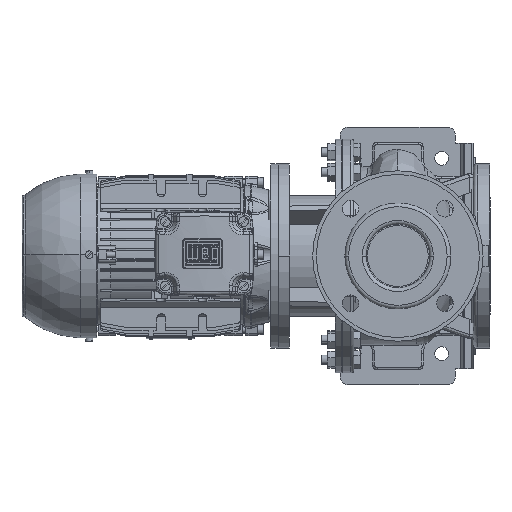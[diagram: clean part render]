
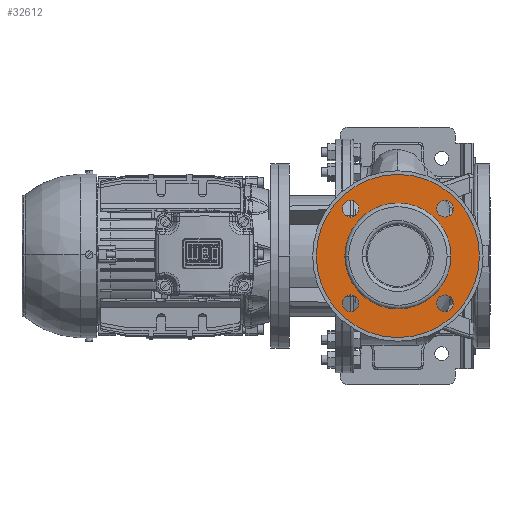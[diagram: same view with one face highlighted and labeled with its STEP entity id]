
A CAD part, left-side view. The second image highlights one B-rep face of the part: STEP entity #32612.
In plain terms, the highlighted planar face has unit normal (-1, 0, 0).
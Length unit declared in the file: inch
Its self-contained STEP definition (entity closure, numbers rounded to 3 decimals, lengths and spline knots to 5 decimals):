
#2226 = ORIENTED_EDGE ( 'NONE', *, *, #87219, .T. ) ;
#5880 = CARTESIAN_POINT ( 'NONE',  ( -6.61417, -5.11811, 0. ) ) ;
#8092 = ORIENTED_EDGE ( 'NONE', *, *, #67151, .T. ) ;
#8902 = VERTEX_POINT ( 'NONE', #59452 ) ;
#10184 = DIRECTION ( 'NONE',  ( 0., 1., 0. ) ) ;
#11184 = CARTESIAN_POINT ( 'NONE',  ( -6.61417, -7.13643, 2.01832 ) ) ;
#11322 = CIRCLE ( 'NONE', #129699, 2.26378 ) ;
#13478 = DIRECTION ( 'NONE',  ( 1., 0., 0. ) ) ;
#15174 = CIRCLE ( 'NONE', #88774, 0.35433 ) ;
#17060 = CARTESIAN_POINT ( 'NONE',  ( -6.61417, -6.7821, 2.01832 ) ) ;
#18431 = AXIS2_PLACEMENT_3D ( 'NONE', #5880, #104634, #67608 ) ;
#24048 = DIRECTION ( 'NONE',  ( -1., 0., 0. ) ) ;
#26919 = DIRECTION ( 'NONE',  ( 0., 1., 0. ) ) ;
#27883 = DIRECTION ( 'NONE',  ( 0., -1., 0. ) ) ;
#28491 = DIRECTION ( 'NONE',  ( 1., 0., 0. ) ) ;
#29769 = PLANE ( 'NONE',  #18431 ) ;
#29801 = VERTEX_POINT ( 'NONE', #124421 ) ;
#29833 = CIRCLE ( 'NONE', #121791, 2.26378 ) ;
#30230 = CARTESIAN_POINT ( 'NONE',  ( -6.61417, -8.60236, 0. ) ) ;
#32612 = ADVANCED_FACE ( 'NONE', ( #68429, #155626, #154810, #131744, #144074, #143268 ), #29769, .F. ) ;
#34064 = DIRECTION ( 'NONE',  ( 1., 0., 0. ) ) ;
#35374 = AXIS2_PLACEMENT_3D ( 'NONE', #11184, #143085, #57504 ) ;
#35864 = EDGE_CURVE ( 'NONE', #116076, #133228, #112755, .T. ) ;
#36506 = EDGE_LOOP ( 'NONE', ( #121295, #106537 ) ) ;
#37071 = EDGE_LOOP ( 'NONE', ( #101743, #142205 ) ) ;
#38937 = DIRECTION ( 'NONE',  ( 0., 0., 1. ) ) ;
#40000 = EDGE_CURVE ( 'NONE', #116958, #91852, #94335, .T. ) ;
#40083 = DIRECTION ( 'NONE',  ( 1., 0., 0. ) ) ;
#41238 = CARTESIAN_POINT ( 'NONE',  ( -6.61417, -7.13643, 2.01832 ) ) ;
#43669 = CARTESIAN_POINT ( 'NONE',  ( -6.61417, -5.11811, 0. ) ) ;
#45619 = CARTESIAN_POINT ( 'NONE',  ( -6.61417, -3.09979, -2.01832 ) ) ;
#47830 = EDGE_CURVE ( 'NONE', #71265, #8902, #29833, .T. ) ;
#49591 = CARTESIAN_POINT ( 'NONE',  ( -6.61417, -3.45412, -2.01832 ) ) ;
#55263 = DIRECTION ( 'NONE',  ( -1., 0., 0. ) ) ;
#55621 = CARTESIAN_POINT ( 'NONE',  ( -6.61417, -1.63386, 0. ) ) ;
#57504 = DIRECTION ( 'NONE',  ( 0., -1., 0. ) ) ;
#57571 = VERTEX_POINT ( 'NONE', #17060 ) ;
#58495 = VERTEX_POINT ( 'NONE', #55621 ) ;
#59254 = DIRECTION ( 'NONE',  ( 1., 0., 0. ) ) ;
#59452 = CARTESIAN_POINT ( 'NONE',  ( -6.61417, -7.38189, 0. ) ) ;
#59484 = EDGE_LOOP ( 'NONE', ( #2226, #105221 ) ) ;
#61901 = DIRECTION ( 'NONE',  ( 0., 1., 0. ) ) ;
#62612 = EDGE_CURVE ( 'NONE', #58495, #110651, #84263, .T. ) ;
#62991 = DIRECTION ( 'NONE',  ( 1., 0., 0. ) ) ;
#63661 = DIRECTION ( 'NONE',  ( 0., 0., 1. ) ) ;
#64541 = CARTESIAN_POINT ( 'NONE',  ( -6.61417, -3.09979, 2.37265 ) ) ;
#66028 = DIRECTION ( 'NONE',  ( 0., 1., 0. ) ) ;
#66574 = VERTEX_POINT ( 'NONE', #118514 ) ;
#67151 = EDGE_CURVE ( 'NONE', #57571, #29801, #105993, .T. ) ;
#67426 = EDGE_CURVE ( 'NONE', #71265, #8902, #11322, .T. ) ;
#67608 = DIRECTION ( 'NONE',  ( 0., 1., 0. ) ) ;
#67791 = EDGE_LOOP ( 'NONE', ( #77489, #8092 ) ) ;
#68429 = FACE_OUTER_BOUND ( 'NONE', #86908, .T. ) ;
#68837 = CARTESIAN_POINT ( 'NONE',  ( -6.61417, -2.74546, -2.01832 ) ) ;
#69497 = EDGE_CURVE ( 'NONE', #29801, #57571, #72161, .T. ) ;
#69576 = DIRECTION ( 'NONE',  ( 0., 0., -1. ) ) ;
#70741 = EDGE_LOOP ( 'NONE', ( #111847, #76908 ) ) ;
#71265 = VERTEX_POINT ( 'NONE', #118260 ) ;
#72161 = CIRCLE ( 'NONE', #35374, 0.35433 ) ;
#76248 = CARTESIAN_POINT ( 'NONE',  ( -6.61417, -3.09979, 2.01832 ) ) ;
#76400 = AXIS2_PLACEMENT_3D ( 'NONE', #90276, #40083, #26919 ) ;
#76908 = ORIENTED_EDGE ( 'NONE', *, *, #67426, .T. ) ;
#77489 = ORIENTED_EDGE ( 'NONE', *, *, #69497, .T. ) ;
#77624 = DIRECTION ( 'NONE',  ( 1., 0., 0. ) ) ;
#78601 = AXIS2_PLACEMENT_3D ( 'NONE', #76248, #28491, #69576 ) ;
#78885 = CARTESIAN_POINT ( 'NONE',  ( -6.61417, -3.09979, -2.01832 ) ) ;
#84263 = CIRCLE ( 'NONE', #76400, 3.48425 ) ;
#85050 = AXIS2_PLACEMENT_3D ( 'NONE', #86568, #24048, #61901 ) ;
#86519 = CIRCLE ( 'NONE', #110256, 0.35433 ) ;
#86567 = AXIS2_PLACEMENT_3D ( 'NONE', #45619, #34064, #10184 ) ;
#86568 = CARTESIAN_POINT ( 'NONE',  ( -6.61417, -5.11811, 0. ) ) ;
#86908 = EDGE_LOOP ( 'NONE', ( #110717, #139370 ) ) ;
#87219 = EDGE_CURVE ( 'NONE', #91852, #116958, #106463, .T. ) ;
#88774 = AXIS2_PLACEMENT_3D ( 'NONE', #151650, #13478, #63661 ) ;
#89977 = CARTESIAN_POINT ( 'NONE',  ( -6.61417, -3.09979, 2.01832 ) ) ;
#90276 = CARTESIAN_POINT ( 'NONE',  ( -6.61417, -5.11811, 0. ) ) ;
#91417 = DIRECTION ( 'NONE',  ( 1., 0., 0. ) ) ;
#91852 = VERTEX_POINT ( 'NONE', #64541 ) ;
#92298 = CARTESIAN_POINT ( 'NONE',  ( -6.61417, -5.11811, 0. ) ) ;
#93698 = CARTESIAN_POINT ( 'NONE',  ( -6.61417, -7.13643, -1.66399 ) ) ;
#94335 = CIRCLE ( 'NONE', #78601, 0.35433 ) ;
#95914 = AXIS2_PLACEMENT_3D ( 'NONE', #89977, #77624, #38937 ) ;
#96655 = EDGE_CURVE ( 'NONE', #133228, #116076, #86519, .T. ) ;
#97566 = CARTESIAN_POINT ( 'NONE',  ( -6.61417, -3.09979, 1.66399 ) ) ;
#98591 = CIRCLE ( 'NONE', #159060, 0.35433 ) ;
#101743 = ORIENTED_EDGE ( 'NONE', *, *, #35864, .T. ) ;
#103782 = DIRECTION ( 'NONE',  ( 0., 1., 0. ) ) ;
#104634 = DIRECTION ( 'NONE',  ( 1., 0., 0. ) ) ;
#105221 = ORIENTED_EDGE ( 'NONE', *, *, #40000, .T. ) ;
#105993 = CIRCLE ( 'NONE', #142715, 0.35433 ) ;
#106463 = CIRCLE ( 'NONE', #95914, 0.35433 ) ;
#106537 = ORIENTED_EDGE ( 'NONE', *, *, #151598, .T. ) ;
#108633 = DIRECTION ( 'NONE',  ( 0., 1., 0. ) ) ;
#109632 = EDGE_CURVE ( 'NONE', #66574, #131810, #98591, .T. ) ;
#110256 = AXIS2_PLACEMENT_3D ( 'NONE', #78885, #153732, #27883 ) ;
#110651 = VERTEX_POINT ( 'NONE', #30230 ) ;
#110717 = ORIENTED_EDGE ( 'NONE', *, *, #62612, .F. ) ;
#111847 = ORIENTED_EDGE ( 'NONE', *, *, #47830, .F. ) ;
#112755 = CIRCLE ( 'NONE', #86567, 0.35433 ) ;
#116076 = VERTEX_POINT ( 'NONE', #68837 ) ;
#116958 = VERTEX_POINT ( 'NONE', #97566 ) ;
#118260 = CARTESIAN_POINT ( 'NONE',  ( -6.61417, -2.85433, 0. ) ) ;
#118514 = CARTESIAN_POINT ( 'NONE',  ( -6.61417, -7.13643, -2.37265 ) ) ;
#121295 = ORIENTED_EDGE ( 'NONE', *, *, #109632, .T. ) ;
#121791 = AXIS2_PLACEMENT_3D ( 'NONE', #92298, #55263, #66028 ) ;
#124421 = CARTESIAN_POINT ( 'NONE',  ( -6.61417, -7.49076, 2.01832 ) ) ;
#129699 = AXIS2_PLACEMENT_3D ( 'NONE', #43669, #59254, #108633 ) ;
#131744 = FACE_BOUND ( 'NONE', #36506, .T. ) ;
#131810 = VERTEX_POINT ( 'NONE', #93698 ) ;
#132376 = CIRCLE ( 'NONE', #85050, 3.48425 ) ;
#133228 = VERTEX_POINT ( 'NONE', #49591 ) ;
#138642 = DIRECTION ( 'NONE',  ( 0., 0., -1. ) ) ;
#139370 = ORIENTED_EDGE ( 'NONE', *, *, #141981, .T. ) ;
#140286 = CARTESIAN_POINT ( 'NONE',  ( -6.61417, -7.13643, -2.01832 ) ) ;
#141981 = EDGE_CURVE ( 'NONE', #58495, #110651, #132376, .T. ) ;
#142205 = ORIENTED_EDGE ( 'NONE', *, *, #96655, .T. ) ;
#142715 = AXIS2_PLACEMENT_3D ( 'NONE', #41238, #91417, #103782 ) ;
#143085 = DIRECTION ( 'NONE',  ( 1., 0., 0. ) ) ;
#143268 = FACE_BOUND ( 'NONE', #59484, .T. ) ;
#144074 = FACE_BOUND ( 'NONE', #37071, .T. ) ;
#151598 = EDGE_CURVE ( 'NONE', #131810, #66574, #15174, .T. ) ;
#151650 = CARTESIAN_POINT ( 'NONE',  ( -6.61417, -7.13643, -2.01832 ) ) ;
#153732 = DIRECTION ( 'NONE',  ( 1., 0., 0. ) ) ;
#154810 = FACE_BOUND ( 'NONE', #67791, .T. ) ;
#155626 = FACE_BOUND ( 'NONE', #70741, .T. ) ;
#159060 = AXIS2_PLACEMENT_3D ( 'NONE', #140286, #62991, #138642 ) ;
